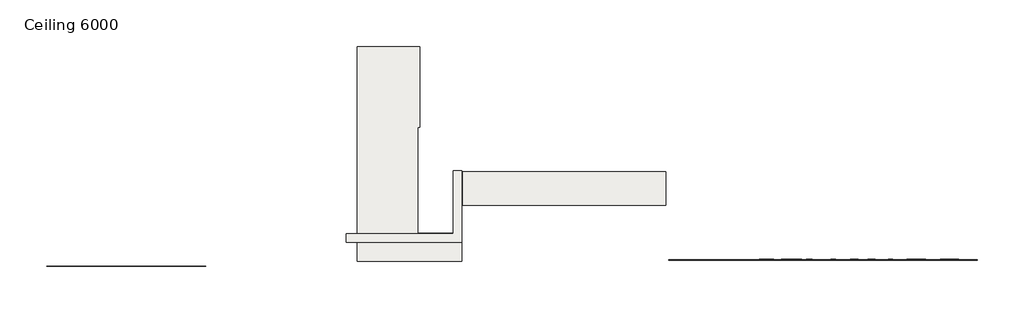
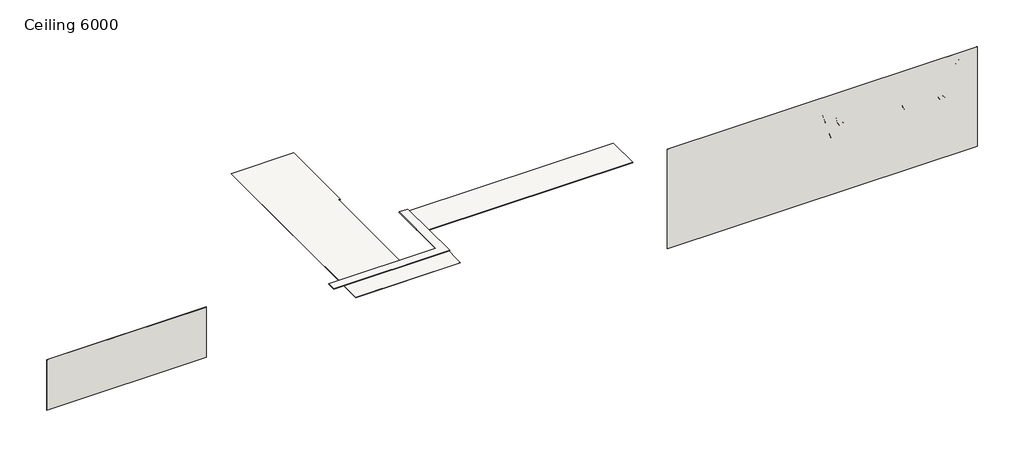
# One storey: 2 slabs, 2 walls, 1 proxy.
"""IFC4 building model written with IfcOpenShell, lengths in millimetres."""

from ifc_helpers import new_model, si_unit, frame, origin, place, context, project, spatial, polyline, outline, extrude, faceted_brep, transform, mapped, element, save
from components import generic_models_26_generic_models_23_658c4b0b

model = new_model("IFC4")

# Units and contexts
model_context = context("Model", 3, world=origin())
ifc_project = project(units=[si_unit("LENGTHUNIT", "METRE", prefix="MILLI")], contexts=[model_context])

# Site, building, storey
site = spatial("IfcSite", under=ifc_project)
building = spatial("IfcBuilding", under=site)
storey = spatial("IfcBuildingStorey", under=building, Name="Ceiling 6000", Elevation=50170.0)

# Proxy
placement = place(None, origin())
generic_models_26_generic_models_23_shape = generic_models_26_generic_models_23_658c4b0b(model_context)
element("IfcBuildingElementProxy", 1, Name="Generic Models 26 : Generic Models 23", ObjectType="Generic Models 26 : Generic Models 23", at=placement, inside=storey, context=model_context, shape_type="MappedRepresentation", body=[
    mapped(generic_models_26_generic_models_23_shape, transform((0.0, 0.0, 0.0), x_axis=(1.0, 0.0, 0.0), y_axis=(0.0, 1.0, 0.0), z_axis=(0.0, 0.0, 1.0))),
])

# Slabs
element("IfcSlab", 2, ObjectType="celing", at=placement, inside=storey, context=model_context, shape_type="SweptSolid", body=[
    extrude(outline(polyline([(-81100.5917799, 18469.2777512), (-104847.9372768, 18469.2777512), (-104847.9372768, 22407.4703267), (-81100.5917799, 22407.4703267), (-81100.5917799, 18469.2777512)])), frame((0.0, 0.0, 50970.0), z_axis=(0.0, 0.0, 1.0), x_axis=(1.0, 0.0, 0.0)), (0.0, 0.0, 1.0), 50.0),
    extrude(outline(polyline([(-109867.8719448, 37028.2777512), (-109867.8719448, 27608.4151802), (-110067.8719448, 27608.4151802), (-110067.8719448, 15169.2777512), (-104947.9372768, 15169.2777512), (-104947.9372768, 11908.2777512), (-117141.9650837, 11908.2777512), (-117141.9650837, 37028.2777512), (-109867.8719448, 37028.2777512)])), frame((0.0, 0.0, 50970.0), z_axis=(0.0, 0.0, 1.0), x_axis=(1.0, 0.0, 0.0)), (0.0, 0.0, 1.0), 50.0),
])
element("IfcSlab", 3, ObjectType="catwalk", at=placement, inside=storey, context=model_context, shape_type="SweptSolid", body=[
    extrude(outline(polyline([(-118447.9372768, 15119.2777512), (-105947.9372768, 15119.2777512), (-105947.9372768, 22507.4703267), (-104947.9372768, 22507.4703267), (-104947.9372768, 14119.2777512), (-118447.9372768, 14119.2777512), (-118447.9372768, 15119.2777512)])), frame((0.0, 0.0, 51100.0), z_axis=(0.0, 0.0, 1.0), x_axis=(1.0, 0.0, 0.0)), (0.0, 0.0, 1.0), 70.0),
])

# Walls
element("IfcWall", 4, ObjectType="Cladding 3", at=placement, inside=storey, context=model_context, shape_type="Brep", body=[
    faceted_brep([(-44637.0423298, 12048.2777512, 44170.0), (-44637.0423298, 12048.2777512, 56399.8081198), (-80762.5917799, 12048.2777512, 56399.8081198), (-80762.5917799, 12048.2777512, 56370.0), (-80762.5917799, 12048.2777512, 44916.0), (-80762.5917799, 12048.2777512, 44170.0), (-44637.0423298, 12086.2777512, 56399.8081198), (-44637.0423298, 12086.2777512, 56398.7878525), (-44637.0423298, 12086.2777512, 44670.0), (-44637.0423298, 12086.2777512, 44170.0), (-80762.5917799, 12086.2777512, 44170.0), (-80762.5917799, 12086.2777512, 56399.8081198)], [[[0, 1, 2, 3, 4, 5]], [[6, 7, 8, 9, 10, 11]], [[1, 0, 9, 8, 7, 6]], [[5, 4, 3, 2, 11, 10]], [[0, 5, 10, 9]], [[2, 1, 6, 11]]]),
])
element("IfcWall", 5, ObjectType="Cladding 3", at=placement, inside=storey, context=model_context, shape_type="SweptSolid", body=[
    extrude(outline(polyline([(-134900.5917799, 11320.2777512), (-153488.6902477, 11320.2777512), (-153488.6902477, 11358.2777512), (-134900.5917799, 11358.2777512), (-134900.5917799, 11320.2777512)])), frame((0.0, 0.0, 50170.0), z_axis=(0.0, 0.0, 1.0), x_axis=(1.0, 0.0, 0.0)), (0.0, 0.0, 1.0), 6203.1700952),
])

save(model, "model.ifc")
